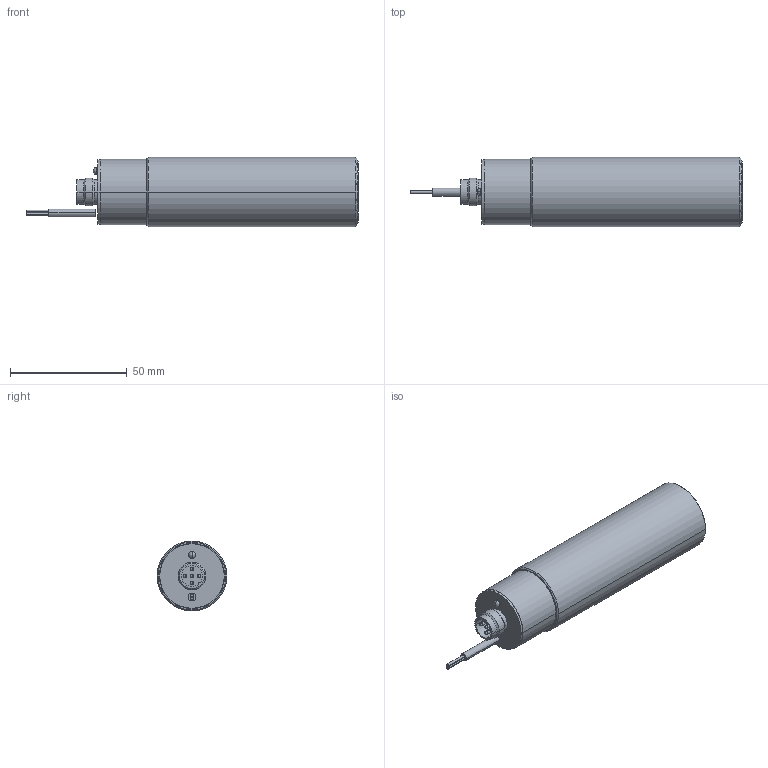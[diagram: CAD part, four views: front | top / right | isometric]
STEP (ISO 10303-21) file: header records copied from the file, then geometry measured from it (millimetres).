
FILE_DESCRIPTION((''),'2;1');
FILE_NAME('C:\Dokumente und Einstellungen\Kramp\Eigene Dateien\Microsonic Nacharbeit 2\STP\dbk-5_Empf_XXX_M30.stp','2005-08-10T11:37:03',('Kramp'),(''),'Autodesk Inventor 7','Autodesk Inventor 7','');
FILE_SCHEMA(('AUTOMOTIVE_DESIGN { 1 0 10303 214 1 1 1 1 }'));
Length unit declared in the file: millimetre
Products named in the file (1): dbk-5_Empf_XXX_M30
Bounding box: 142.3 x 30 x 30 mm (x, y, z)
Volume: 77367.7 mm3; surface area: 12754.5 mm2
Topology: 2 solids, 2 shells, 77 faces, 175 edges, 91 vertices
Faces by surface type: cylinder 42, plane 13, sphere 12, cone 8, torus 2
Entity records: 2018 total; most frequent: DIRECTION 408, CARTESIAN_POINT 320, ORIENTED_EDGE 302, AXIS2_PLACEMENT_3D 179, EDGE_CURVE 151, CIRCLE 101, VERTEX_POINT 91, EDGE_LOOP 91
